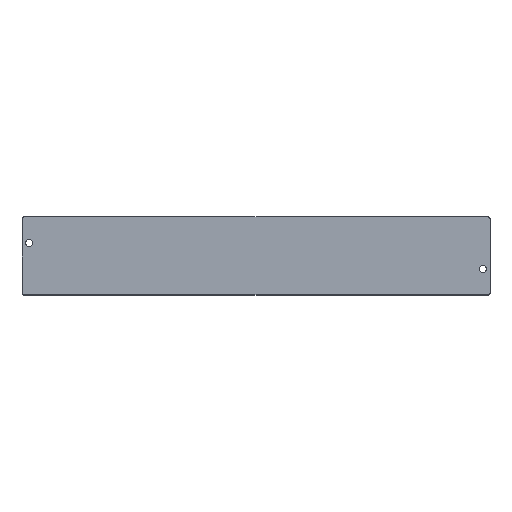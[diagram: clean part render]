
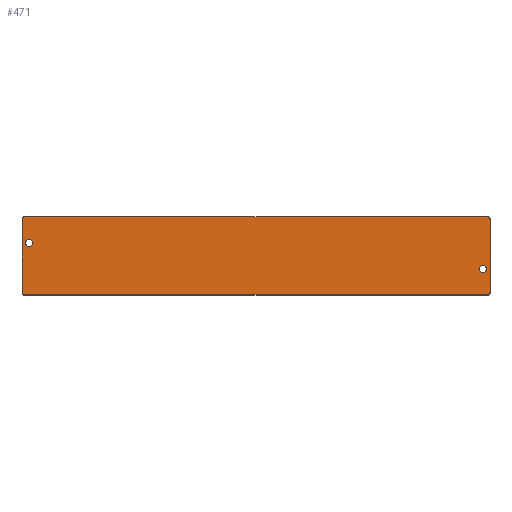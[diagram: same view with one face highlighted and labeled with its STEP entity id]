
A CAD part, top view. The second image highlights one B-rep face of the part: STEP entity #471.
In plain terms, the highlighted planar face has unit normal (0, 0, 1).
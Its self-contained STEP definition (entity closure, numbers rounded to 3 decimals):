
#2 = AXIS2_PLACEMENT_3D ( 'NONE', #13, #156, #351 ) ;
#4 = VECTOR ( 'NONE', #479, 1000. ) ;
#6 = DIRECTION ( 'NONE',  ( 0., 0., -1. ) ) ;
#7 = FACE_BOUND ( 'NONE', #185, .T. ) ;
#13 = CARTESIAN_POINT ( 'NONE',  ( 0.5, 0.5, 2. ) ) ;
#17 = CIRCLE ( 'NONE', #125, 1.1 ) ;
#21 = EDGE_LOOP ( 'NONE', ( #416, #307, #229, #481, #312, #121, #453, #243 ) ) ;
#31 = AXIS2_PLACEMENT_3D ( 'NONE', #353, #271, #419 ) ;
#32 = AXIS2_PLACEMENT_3D ( 'NONE', #260, #347, #403 ) ;
#33 = VERTEX_POINT ( 'NONE', #365 ) ;
#43 = VECTOR ( 'NONE', #129, 1000. ) ;
#44 = AXIS2_PLACEMENT_3D ( 'NONE', #456, #84, #276 ) ;
#46 = VERTEX_POINT ( 'NONE', #170 ) ;
#47 = CARTESIAN_POINT ( 'NONE',  ( 0., 0., 2. ) ) ;
#51 = FACE_BOUND ( 'NONE', #257, .T. ) ;
#53 = LINE ( 'NONE', #162, #43 ) ;
#64 = VERTEX_POINT ( 'NONE', #103 ) ;
#84 = DIRECTION ( 'NONE',  ( 0., 0., 1. ) ) ;
#87 = CIRCLE ( 'NONE', #423, 1.1 ) ;
#97 = VERTEX_POINT ( 'NONE', #387 ) ;
#103 = CARTESIAN_POINT ( 'NONE',  ( 0., 23.5, 2. ) ) ;
#107 = VECTOR ( 'NONE', #238, 1000. ) ;
#111 = DIRECTION ( 'NONE',  ( 0., 0., 1. ) ) ;
#119 = ORIENTED_EDGE ( 'NONE', *, *, #343, .F. ) ;
#121 = ORIENTED_EDGE ( 'NONE', *, *, #437, .T. ) ;
#122 = CARTESIAN_POINT ( 'NONE',  ( 0., 0., 2. ) ) ;
#124 = CARTESIAN_POINT ( 'NONE',  ( 142.9, 8., 2. ) ) ;
#125 = AXIS2_PLACEMENT_3D ( 'NONE', #336, #111, #295 ) ;
#129 = DIRECTION ( 'NONE',  ( 0., 1., 0. ) ) ;
#135 = VECTOR ( 'NONE', #318, 1000. ) ;
#139 = LINE ( 'NONE', #300, #4 ) ;
#141 = CIRCLE ( 'NONE', #2, 0.5 ) ;
#145 = CARTESIAN_POINT ( 'NONE',  ( 2.2, 16., 2. ) ) ;
#148 = VERTEX_POINT ( 'NONE', #188 ) ;
#156 = DIRECTION ( 'NONE',  ( 0., 0., 1. ) ) ;
#158 = EDGE_CURVE ( 'NONE', #148, #446, #141, .T. ) ;
#160 = VERTEX_POINT ( 'NONE', #199 ) ;
#161 = LINE ( 'NONE', #122, #135 ) ;
#162 = CARTESIAN_POINT ( 'NONE',  ( 144., 0., 2. ) ) ;
#170 = CARTESIAN_POINT ( 'NONE',  ( 144., 23.5, 2. ) ) ;
#172 = EDGE_CURVE ( 'NONE', #97, #46, #53, .T. ) ;
#177 = VERTEX_POINT ( 'NONE', #124 ) ;
#185 = EDGE_LOOP ( 'NONE', ( #268, #468 ) ) ;
#187 = DIRECTION ( 'NONE',  ( -1., 0., 0. ) ) ;
#188 = CARTESIAN_POINT ( 'NONE',  ( 0., 0.5, 2. ) ) ;
#199 = CARTESIAN_POINT ( 'NONE',  ( 3.3, 16., 2. ) ) ;
#204 = DIRECTION ( 'NONE',  ( 0., 0., 1. ) ) ;
#228 = DIRECTION ( 'NONE',  ( 0., 0., 1. ) ) ;
#229 = ORIENTED_EDGE ( 'NONE', *, *, #464, .T. ) ;
#235 = CARTESIAN_POINT ( 'NONE',  ( 0.5, 0., 2. ) ) ;
#237 = EDGE_CURVE ( 'NONE', #414, #64, #459, .T. ) ;
#238 = DIRECTION ( 'NONE',  ( 1., 0., 0. ) ) ;
#243 = ORIENTED_EDGE ( 'NONE', *, *, #237, .T. ) ;
#253 = CARTESIAN_POINT ( 'NONE',  ( 1.1, 16., 2. ) ) ;
#255 = CIRCLE ( 'NONE', #44, 0.5 ) ;
#257 = EDGE_LOOP ( 'NONE', ( #119, #305 ) ) ;
#259 = EDGE_CURVE ( 'NONE', #418, #177, #461, .T. ) ;
#260 = CARTESIAN_POINT ( 'NONE',  ( 143.5, 0.5, 2. ) ) ;
#268 = ORIENTED_EDGE ( 'NONE', *, *, #348, .F. ) ;
#271 = DIRECTION ( 'NONE',  ( 0., 0., 1. ) ) ;
#276 = DIRECTION ( 'NONE',  ( -1., 0., 0. ) ) ;
#277 = AXIS2_PLACEMENT_3D ( 'NONE', #282, #204, #388 ) ;
#282 = CARTESIAN_POINT ( 'NONE',  ( 141.8, 8., 2. ) ) ;
#285 = CIRCLE ( 'NONE', #443, 1.1 ) ;
#289 = VERTEX_POINT ( 'NONE', #253 ) ;
#291 = EDGE_CURVE ( 'NONE', #289, #160, #285, .T. ) ;
#294 = CARTESIAN_POINT ( 'NONE',  ( 2.2, 16., 2. ) ) ;
#295 = DIRECTION ( 'NONE',  ( 1., 0., 0. ) ) ;
#300 = CARTESIAN_POINT ( 'NONE',  ( 0., 24., 2. ) ) ;
#301 = EDGE_CURVE ( 'NONE', #33, #414, #139, .T. ) ;
#305 = ORIENTED_EDGE ( 'NONE', *, *, #259, .F. ) ;
#307 = ORIENTED_EDGE ( 'NONE', *, *, #158, .T. ) ;
#310 = FACE_OUTER_BOUND ( 'NONE', #21, .T. ) ;
#312 = ORIENTED_EDGE ( 'NONE', *, *, #172, .T. ) ;
#318 = DIRECTION ( 'NONE',  ( 0., -1., 0. ) ) ;
#332 = VERTEX_POINT ( 'NONE', #345 ) ;
#336 = CARTESIAN_POINT ( 'NONE',  ( 141.8, 8., 2. ) ) ;
#343 = EDGE_CURVE ( 'NONE', #177, #418, #17, .T. ) ;
#344 = CIRCLE ( 'NONE', #32, 0.5 ) ;
#345 = CARTESIAN_POINT ( 'NONE',  ( 143.5, 0., 2. ) ) ;
#347 = DIRECTION ( 'NONE',  ( 0., 0., 1. ) ) ;
#348 = EDGE_CURVE ( 'NONE', #160, #289, #87, .T. ) ;
#351 = DIRECTION ( 'NONE',  ( -1., 0., 0. ) ) ;
#353 = CARTESIAN_POINT ( 'NONE',  ( 0.5, 23.5, 2. ) ) ;
#365 = CARTESIAN_POINT ( 'NONE',  ( 143.5, 24., 2. ) ) ;
#366 = CARTESIAN_POINT ( 'NONE',  ( 0.5, 24., 2. ) ) ;
#382 = PLANE ( 'NONE',  #389 ) ;
#385 = CARTESIAN_POINT ( 'NONE',  ( 0., 0., 2. ) ) ;
#387 = CARTESIAN_POINT ( 'NONE',  ( 144., 0.5, 2. ) ) ;
#388 = DIRECTION ( 'NONE',  ( 1., 0., 0. ) ) ;
#389 = AXIS2_PLACEMENT_3D ( 'NONE', #47, #6, #187 ) ;
#391 = EDGE_CURVE ( 'NONE', #332, #97, #344, .T. ) ;
#403 = DIRECTION ( 'NONE',  ( -1., 0., 0. ) ) ;
#414 = VERTEX_POINT ( 'NONE', #366 ) ;
#416 = ORIENTED_EDGE ( 'NONE', *, *, #489, .T. ) ;
#418 = VERTEX_POINT ( 'NONE', #477 ) ;
#419 = DIRECTION ( 'NONE',  ( -1., 0., 0. ) ) ;
#423 = AXIS2_PLACEMENT_3D ( 'NONE', #145, #441, #447 ) ;
#437 = EDGE_CURVE ( 'NONE', #46, #33, #255, .T. ) ;
#439 = DIRECTION ( 'NONE',  ( 1., 0., 0. ) ) ;
#441 = DIRECTION ( 'NONE',  ( 0., 0., 1. ) ) ;
#443 = AXIS2_PLACEMENT_3D ( 'NONE', #294, #228, #439 ) ;
#446 = VERTEX_POINT ( 'NONE', #235 ) ;
#447 = DIRECTION ( 'NONE',  ( 1., 0., 0. ) ) ;
#449 = LINE ( 'NONE', #385, #107 ) ;
#453 = ORIENTED_EDGE ( 'NONE', *, *, #301, .T. ) ;
#456 = CARTESIAN_POINT ( 'NONE',  ( 143.5, 23.5, 2. ) ) ;
#459 = CIRCLE ( 'NONE', #31, 0.5 ) ;
#461 = CIRCLE ( 'NONE', #277, 1.1 ) ;
#464 = EDGE_CURVE ( 'NONE', #446, #332, #449, .T. ) ;
#468 = ORIENTED_EDGE ( 'NONE', *, *, #291, .F. ) ;
#471 = ADVANCED_FACE ( 'NONE', ( #51, #310, #7 ), #382, .F. ) ;
#477 = CARTESIAN_POINT ( 'NONE',  ( 140.7, 8., 2. ) ) ;
#479 = DIRECTION ( 'NONE',  ( -1., 0., 0. ) ) ;
#481 = ORIENTED_EDGE ( 'NONE', *, *, #391, .T. ) ;
#489 = EDGE_CURVE ( 'NONE', #64, #148, #161, .T. ) ;
